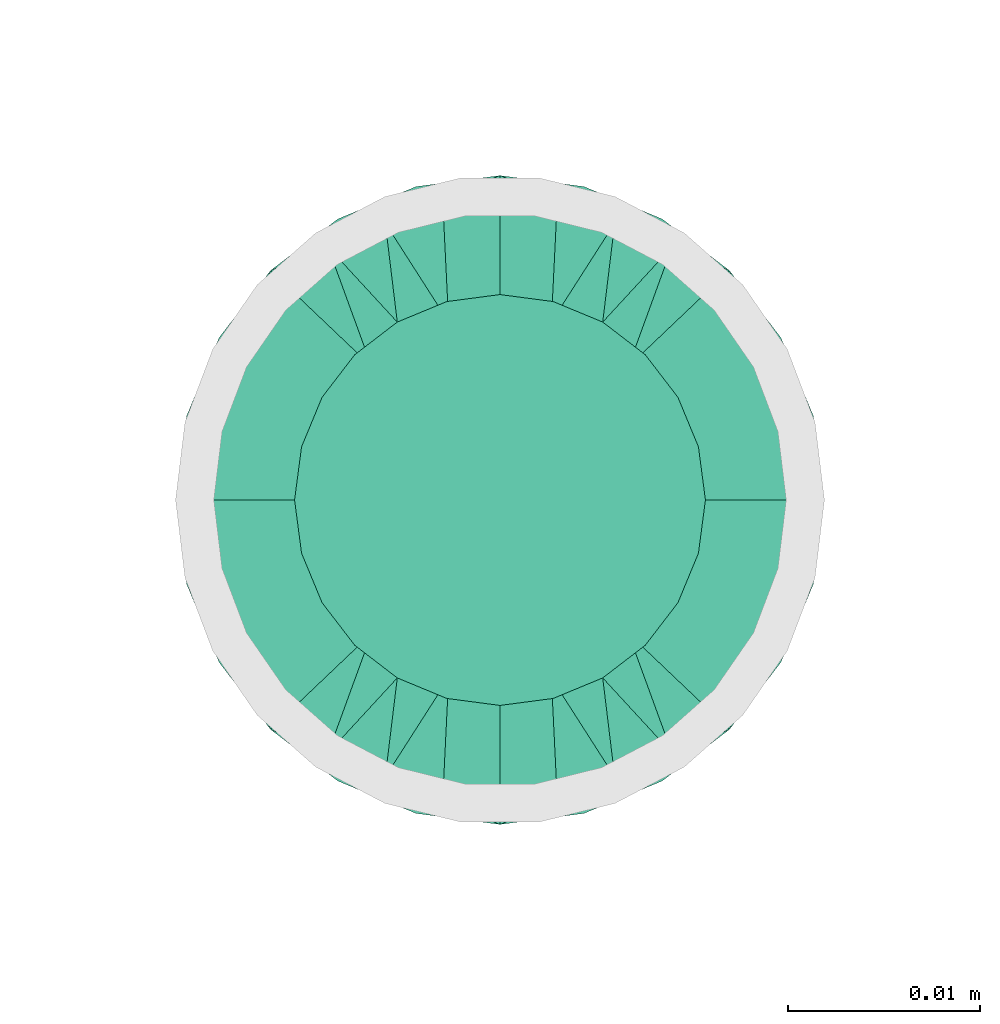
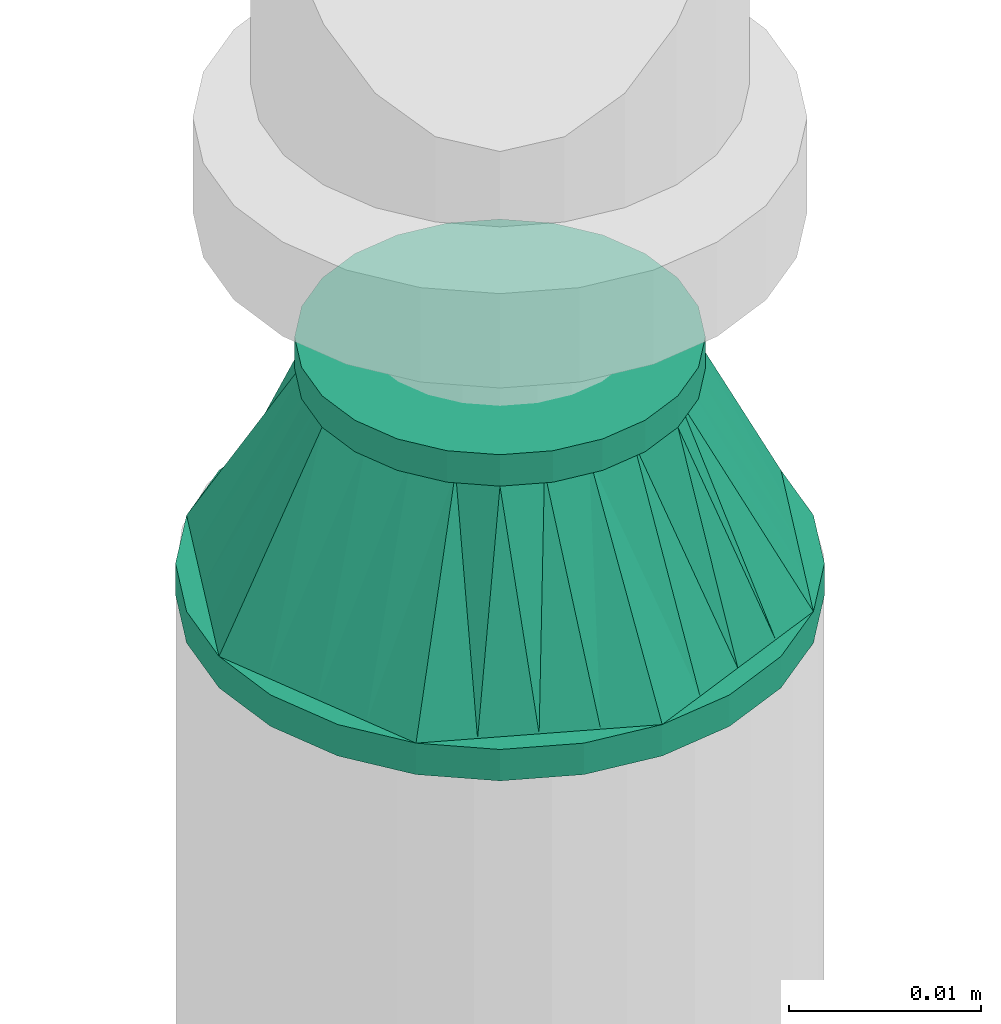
# One storey, part 13 of 94: 1 flow fitting.
"""IFC2X3 building model written with IfcOpenShell, lengths in millimetres."""

from ifc_helpers import new_model, entity, si_unit, converted_unit, derived_unit, direction, frame, origin_with_axes, place, context, subcontext, project, spatial, open_shell, surface_model, source, transform, mapped, type_object, element, save


model = new_model("IFC2X3")

# Units and contexts
model_context = context("Model", 3, precision=0.01, world=frame((0.0, 4.29681676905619e-09, 0.0)), true_north=direction((4.01073788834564e-13, 1.0)))
plan_context = context("Plan", 3, precision=0.01, world=frame((0.0, 4.29681676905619e-09, 0.0)), true_north=direction((4.01073788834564e-13, 1.0)))
body_context = subcontext(model_context, "Body", "Model", "MODEL_VIEW")
ifc_project = project(units=[converted_unit("PLANEANGLEUNIT", "DEGREE", entity("IfcPositiveLengthMeasure", 0.0174532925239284), si_unit("PLANEANGLEUNIT", "RADIAN"), dimensions=[0, 0, 0, 0, 0, 0, 0]), si_unit("AREAUNIT", "SQUARE_METRE"), si_unit("LENGTHUNIT", "METRE", prefix="MILLI"), si_unit("MASSUNIT", "GRAM", prefix="KILO"), si_unit("POWERUNIT", "WATT"), si_unit("PRESSUREUNIT", "PASCAL"), si_unit("FORCEUNIT", "NEWTON", prefix="KILO"), si_unit("ELECTRICCURRENTUNIT", "AMPERE"), si_unit("THERMODYNAMICTEMPERATUREUNIT", "DEGREE_CELSIUS"), si_unit("TIMEUNIT", "SECOND"), si_unit("VOLUMEUNIT", "CUBIC_METRE"), derived_unit("LINEARVELOCITYUNIT", [(si_unit("LENGTHUNIT", "METRE"), 1), (si_unit("TIMEUNIT", "SECOND"), -1)]), derived_unit("VOLUMETRICFLOWRATEUNIT", [(si_unit("VOLUMEUNIT", "CUBIC_METRE"), 1), (si_unit("TIMEUNIT", "SECOND"), -1)]), derived_unit("THERMALTRANSMITTANCEUNIT", [(si_unit("POWERUNIT", "WATT"), 1), (si_unit("THERMODYNAMICTEMPERATUREUNIT", "KELVIN"), -1), (si_unit("AREAUNIT", "SQUARE_METRE"), -1)])], contexts=[model_context, plan_context])

# Site, building, storey
site_placement = place(None, frame((0.0, -4.29681676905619e-09, 0.0), z_axis=(0.0, 0.0, 1.0), x_axis=(1.0, 0.0, 0.0)))
site = spatial("IfcSite", under=ifc_project, at=site_placement, CompositionType="ELEMENT")
building_placement = place(site_placement, frame((0.0, 4.29681676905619e-09, 0.0), z_axis=(0.0, 0.0, 1.0), x_axis=(1.0, 0.0, 0.0)))
building = spatial("IfcBuilding", under=site, at=building_placement, Name="mc-building", CompositionType="ELEMENT")
storey_placement = place(building_placement, frame((0.0, 0.0, 200300.0), z_axis=(0.0, 0.0, 1.0), x_axis=(1.0, 0.0, 0.0)))
storey = spatial("IfcBuildingStorey", under=building, at=storey_placement, Name="Nivå C", CompositionType="ELEMENT", Elevation=200300.0)

# Flow fitting
pipe_fitting_type = type_object("IfcPipeFittingType", Name="magi_pipe_fe_reducer_centric_short_NOR", PredefinedType="TRANSITION")
shared_shape = source(origin_with_axes(), body_context, "Body", "SurfaceModel", [
    surface_model("IfcShellBasedSurfaceModel", [(14.4, 5.35, -9.26647), (14.4, 0.0, -10.7), (14.4, 2.76936, -10.33541), (14.4, 10.33541, -2.76936), (14.4, 7.56604, -7.56604), (14.4, -10.33541, -2.76936), (14.4, 9.26647, -5.35), (14.4, 0.0, 10.7), (14.4, -5.35, -9.26647), (14.4, -2.76936, -10.33541), (14.4, -7.56604, -7.56604), (14.4, -9.26647, -5.35), (14.4, 10.7, 0.0), (14.4, 10.33541, 2.76936), (14.4, 9.26647, 5.35), (14.4, 7.56604, 7.56604), (14.4, 2.76936, 10.33541), (14.4, 5.35, 9.26647), (14.4, -10.33541, 2.76936), (14.4, -7.56604, 7.56604), (14.4, -9.26647, 5.35), (14.4, -10.7, 0.0), (14.4, -2.76936, 10.33541), (14.4, -5.35, 9.26647), (12.4, 2.76936, 10.33541), (12.4, -10.33541, -2.76936), (12.4, 0.0, 10.7), (12.4, 5.35, 9.26647), (12.4, 7.56604, 7.56604), (12.4, 9.26647, 5.35), (12.4, 10.33541, 2.76936), (12.4, -10.33541, 2.76936), (12.4, -2.76936, 10.33541), (12.4, -7.56604, 7.56604), (12.4, -5.35, 9.26647), (12.4, -9.26647, 5.35), (12.4, -10.7, 0.0), (12.4, 10.33541, -2.76936), (12.4, 5.35, -9.26647), (12.4, 9.26647, -5.35), (12.4, 7.56604, -7.56604), (12.4, 2.76936, -10.33541), (12.4, -9.26647, -5.35), (12.4, -5.35, -9.26647), (12.4, -7.56604, -7.56604), (12.4, 0.0, -10.7), (12.4, -2.76936, -10.33541), (12.4, 10.7, 0.0), (-2.0, 11.9501, 11.9501), (-2.0, 0.0, 16.9), (-2.0, 4.37404, 16.32415), (-2.0, 8.45, 14.63583), (-2.0, 14.63583, 8.45), (-2.0, 16.32415, 4.37404), (-2.0, -16.32415, 4.37404), (-2.0, -8.45, 14.63583), (-2.0, -14.63583, 8.45), (-2.0, -11.9501, 11.9501), (-2.0, -4.37404, 16.32415), (-2.0, -16.32415, -4.37404), (-2.0, -16.9, 0.0), (-2.0, -8.45, -14.63583), (-2.0, 16.32415, -4.37404), (-2.0, 11.9501, -11.9501), (-2.0, 14.63583, -8.45), (-2.0, 8.45, -14.63583), (-2.0, 4.37404, -16.32415), (-2.0, 0.0, -16.9), (-2.0, -11.9501, -11.9501), (-2.0, -14.63583, -8.45), (-2.0, -4.37404, -16.32415), (-2.0, 16.9, 0.0), (0.0, 4.37404, -16.32415), (0.0, 8.45, -14.63583), (0.0, 11.9501, -11.9501), (0.0, 0.0, -16.9), (0.0, 16.32415, -4.37404), (0.0, 16.32415, 4.37404), (0.0, 14.63583, -8.45), (0.0, -8.45, -14.63583), (0.0, -4.37404, -16.32415), (0.0, -11.9501, -11.9501), (0.0, -16.32415, -4.37404), (0.0, -14.63583, -8.45), (0.0, -16.32415, 4.37404), (0.0, 16.9, 0.0), (0.0, 14.63583, 8.45), (0.0, 11.9501, 11.9501), (0.0, 4.37404, 16.32415), (0.0, 8.45, 14.63583), (0.0, 0.0, 16.9), (0.0, -14.63583, 8.45), (0.0, -16.9, 0.0), (0.0, -8.45, 14.63583), (0.0, -11.9501, 11.9501), (0.0, -4.37404, 16.32415), (12.4, 9.3625, -2.31662), (0.0, 14.42505, -5.97505), (0.0, 15.66253, -2.98753), (12.4, -6.6875, -6.94985), (0.0, -13.18758, -8.96258), (0.0, 2.98753, -15.66253), (12.4, 0.0, -9.26647), (12.4, 6.6875, -6.94985), (0.0, 8.96258, -13.18758), (12.4, -9.3625, -2.31662), (0.0, -15.66253, -2.98753), (0.0, -14.42505, -5.97505), (0.0, 5.97505, -14.42505), (0.0, -2.98753, -15.66253), (0.0, -8.96258, -13.18758), (0.0, 13.18758, -8.96258), (12.4, 8.025, -4.63324), (12.4, -2.675, -9.26647), (12.4, 2.675, -9.26647), (0.0, -5.97505, -14.42505), (12.4, -8.025, -4.63324), (12.4, -9.3625, 2.31662), (0.0, -14.42505, 5.97505), (0.0, -15.66253, 2.98753), (12.4, 6.6875, 6.94985), (0.0, 13.18758, 8.96258), (0.0, -2.98753, 15.66253), (12.4, 0.0, 9.26647), (12.4, -6.6875, 6.94985), (0.0, -8.96258, 13.18758), (12.4, 9.3625, 2.31662), (0.0, 15.66253, 2.98753), (0.0, 14.42505, 5.97505), (0.0, -5.97505, 14.42505), (0.0, 2.98753, 15.66253), (0.0, 8.96258, 13.18758), (0.0, -13.18758, 8.96258), (12.4, -8.025, 4.63324), (12.4, 2.675, 9.26647), (12.4, -2.675, 9.26647), (0.0, 5.97505, 14.42505), (12.4, 8.025, 4.63324)], [open_shell([[[0, 1, 2]], [[3, 0, 4]], [[5, 0, 3]], [[3, 4, 6]], [[7, 5, 3]], [[1, 8, 9]], [[1, 0, 8]], [[10, 5, 11]], [[5, 10, 8]], [[0, 5, 8]], [[3, 12, 13]], [[13, 14, 15]], [[13, 15, 16]], [[7, 3, 16]], [[16, 15, 17]], [[7, 18, 5]], [[18, 19, 20]], [[21, 5, 18]], [[19, 22, 23]], [[22, 19, 18]], [[7, 22, 18]], [[13, 16, 3]], [[24, 25, 26]], [[27, 25, 24]], [[28, 29, 30]], [[28, 25, 27]], [[31, 26, 25]], [[32, 33, 34]], [[33, 32, 31]], [[33, 31, 35]], [[32, 26, 31]], [[31, 25, 36]], [[30, 37, 28]], [[25, 28, 37]], [[38, 37, 39]], [[37, 38, 25]], [[38, 39, 40]], [[41, 25, 38]], [[42, 43, 44]], [[43, 42, 25]], [[43, 45, 46]], [[43, 25, 41]], [[41, 45, 43]], [[37, 30, 47]], [[25, 5, 36]], [[42, 11, 25]], [[8, 44, 43]], [[42, 44, 10]], [[9, 43, 46]], [[25, 11, 5]], [[5, 21, 36]], [[9, 8, 43]], [[10, 44, 8]], [[10, 11, 42]], [[1, 9, 46]], [[46, 45, 1]], [[41, 2, 45]], [[38, 0, 41]], [[6, 40, 39]], [[38, 40, 4]], [[3, 39, 37]], [[38, 4, 0]], [[0, 2, 41]], [[12, 3, 37]], [[6, 39, 3]], [[6, 4, 40]], [[47, 12, 37]], [[45, 2, 1]], [[30, 13, 47]], [[29, 14, 30]], [[17, 28, 27]], [[29, 28, 15]], [[16, 27, 24]], [[30, 14, 13]], [[13, 12, 47]], [[16, 17, 27]], [[15, 28, 17]], [[15, 14, 29]], [[7, 16, 24]], [[24, 26, 7]], [[32, 22, 26]], [[34, 23, 32]], [[20, 33, 35]], [[34, 33, 19]], [[18, 35, 31]], [[34, 19, 23]], [[23, 22, 32]], [[21, 18, 31]], [[20, 35, 18]], [[20, 19, 33]], [[36, 21, 31]], [[26, 22, 7]], [[48, 49, 50]], [[48, 50, 51]], [[48, 52, 53]], [[48, 53, 49]], [[49, 53, 54]], [[55, 56, 57]], [[55, 58, 49]], [[56, 55, 49]], [[49, 54, 56]], [[54, 59, 60]], [[54, 53, 61]], [[53, 62, 63]], [[63, 62, 64]], [[63, 65, 66]], [[61, 53, 63]], [[67, 63, 66]], [[59, 68, 69]], [[68, 59, 61]], [[61, 67, 70]], [[59, 54, 61]], [[63, 67, 61]], [[53, 71, 62]], [[72, 73, 74]], [[75, 72, 74]], [[74, 76, 77]], [[76, 74, 78]], [[74, 77, 79]], [[75, 79, 80]], [[75, 74, 79]], [[81, 82, 83]], [[82, 81, 79]], [[79, 84, 82]], [[77, 76, 85]], [[77, 86, 87]], [[77, 87, 88]], [[88, 84, 79]], [[88, 87, 89]], [[84, 88, 90]], [[90, 91, 84]], [[92, 82, 84]], [[91, 93, 94]], [[91, 90, 93]], [[93, 90, 95]], [[79, 77, 88]], [[59, 82, 60]], [[69, 83, 59]], [[79, 68, 61]], [[69, 68, 81]], [[80, 61, 70]], [[59, 83, 82]], [[82, 92, 60]], [[80, 79, 61]], [[81, 68, 79]], [[81, 83, 69]], [[75, 80, 70]], [[70, 67, 75]], [[66, 72, 67]], [[65, 73, 66]], [[78, 63, 64]], [[65, 63, 74]], [[76, 64, 62]], [[65, 74, 73]], [[73, 72, 66]], [[85, 76, 62]], [[78, 64, 76]], [[78, 74, 63]], [[71, 85, 62]], [[67, 72, 75]], [[53, 77, 71]], [[52, 86, 53]], [[89, 48, 51]], [[52, 48, 87]], [[88, 51, 50]], [[53, 86, 77]], [[77, 85, 71]], [[88, 89, 51]], [[87, 48, 89]], [[87, 86, 52]], [[90, 88, 50]], [[50, 49, 90]], [[58, 95, 49]], [[55, 93, 58]], [[91, 57, 56]], [[55, 57, 94]], [[84, 56, 54]], [[55, 94, 93]], [[93, 95, 58]], [[92, 84, 54]], [[91, 56, 84]], [[91, 94, 57]], [[60, 92, 54]], [[49, 95, 90]], [[27, 34, 47]], [[47, 34, 43]], [[43, 38, 47]], [[43, 34, 36]], [[90, 87, 94]], [[92, 94, 87]], [[87, 74, 92]], [[75, 92, 74]], [[81, 92, 75]], [[74, 87, 85]], [[96, 97, 98]], [[81, 99, 100]], [[101, 102, 75]], [[98, 85, 47]], [[74, 103, 104]], [[104, 103, 38]], [[105, 106, 107]], [[38, 108, 104]], [[102, 109, 75]], [[110, 99, 81]], [[47, 96, 98]], [[103, 111, 112]], [[109, 102, 113]], [[36, 92, 106]], [[102, 101, 114]], [[110, 115, 43]], [[96, 112, 97]], [[107, 116, 105]], [[36, 106, 105]], [[113, 115, 109]], [[43, 115, 113]], [[116, 107, 100]], [[108, 38, 114]], [[111, 103, 74]], [[111, 97, 112]], [[99, 110, 43]], [[116, 100, 99]], [[101, 108, 114]], [[117, 118, 119]], [[87, 120, 121]], [[122, 123, 90]], [[119, 92, 36]], [[94, 124, 125]], [[125, 124, 34]], [[126, 127, 128]], [[34, 129, 125]], [[123, 130, 90]], [[131, 120, 87]], [[36, 117, 119]], [[124, 132, 133]], [[130, 123, 134]], [[47, 85, 127]], [[123, 122, 135]], [[131, 136, 27]], [[117, 133, 118]], [[128, 137, 126]], [[47, 127, 126]], [[134, 136, 130]], [[27, 136, 134]], [[137, 128, 121]], [[129, 34, 135]], [[132, 124, 94]], [[132, 118, 133]], [[120, 131, 27]], [[137, 121, 120]], [[122, 129, 135]]])]),
])
flow_fitting_placement = place(storey_placement, frame((516401.31443, 406256.49509, 2962.64799999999), z_axis=(0.0, -1.0, 0.0), x_axis=(0.0, 0.0, 1.0)))
element("IfcFlowFitting", 1, at=flow_fitting_placement, inside=storey, type_object=pipe_fitting_type, Name="magi_pipe_fe_reducer_centric_short_NOR", context=body_context, shape_type="MappedRepresentation", body=[
    mapped(shared_shape, transform((0.0, 0.0, 0.0), scale=1.0)),
])

save(model, "model.ifc")
